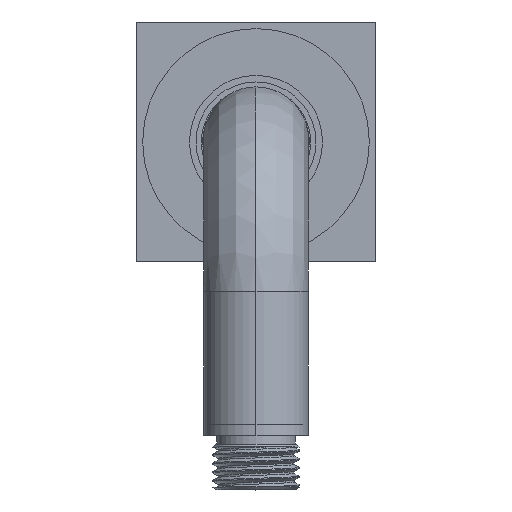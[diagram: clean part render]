
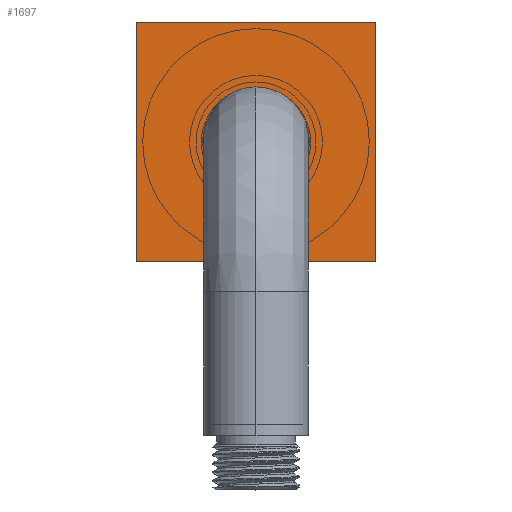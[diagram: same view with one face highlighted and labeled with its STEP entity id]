
A CAD part, top view. The second image highlights one B-rep face of the part: STEP entity #1697.
In plain terms, the highlighted planar face has unit normal (0, 0, 1).
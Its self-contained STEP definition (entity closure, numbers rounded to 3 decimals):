
#192=FACE_BOUND('',#515,.T.);
#210=LINE('',#2442,#290);
#211=LINE('',#2444,#291);
#212=LINE('',#2446,#292);
#213=LINE('',#2447,#293);
#290=VECTOR('',#2008,55.);
#291=VECTOR('',#2009,55.);
#292=VECTOR('',#2010,55.);
#293=VECTOR('',#2011,55.);
#370=PLANE('',#1824);
#407=FACE_OUTER_BOUND('',#514,.T.);
#514=EDGE_LOOP('',(#1169,#1170,#1171,#1172));
#515=EDGE_LOOP('',(#1173));
#640=CIRCLE('',#1825,12.25);
#725=VERTEX_POINT('',#2440);
#726=VERTEX_POINT('',#2441);
#727=VERTEX_POINT('',#2443);
#728=VERTEX_POINT('',#2445);
#729=VERTEX_POINT('',#2448);
#902=EDGE_CURVE('',#725,#726,#210,.T.);
#903=EDGE_CURVE('',#727,#725,#211,.T.);
#904=EDGE_CURVE('',#728,#727,#212,.T.);
#905=EDGE_CURVE('',#726,#728,#213,.T.);
#906=EDGE_CURVE('',#729,#729,#640,.T.);
#1169=ORIENTED_EDGE('',*,*,#902,.F.);
#1170=ORIENTED_EDGE('',*,*,#903,.F.);
#1171=ORIENTED_EDGE('',*,*,#904,.F.);
#1172=ORIENTED_EDGE('',*,*,#905,.F.);
#1173=ORIENTED_EDGE('',*,*,#906,.F.);
#1697=ADVANCED_FACE('',(#407,#192),#370,.F.);
#1824=AXIS2_PLACEMENT_3D('',#2439,#2006,#2007);
#1825=AXIS2_PLACEMENT_3D('',#2449,#2012,#2013);
#2006=DIRECTION('center_axis',(0.,0.,
-1.));
#2007=DIRECTION('ref_axis',(0.,1.,0.));
#2008=DIRECTION('',(-1.,0.,0.));
#2009=DIRECTION('',(0.,-1.,0.));
#2010=DIRECTION('',(1.,0.,0.));
#2011=DIRECTION('',(0.,1.,0.));
#2012=DIRECTION('center_axis',(0.,0.,
1.));
#2013=DIRECTION('ref_axis',(0.,-1.,0.));
#2439=CARTESIAN_POINT('Origin',(0.86,7.221,-7.546));
#2440=CARTESIAN_POINT('',(28.36,-20.279,-7.546));
#2441=CARTESIAN_POINT('',(-26.64,-20.279,-7.546));
#2442=CARTESIAN_POINT('',(28.36,-20.279,-7.546));
#2443=CARTESIAN_POINT('',(28.36,34.721,-7.546));
#2444=CARTESIAN_POINT('',(28.36,34.721,-7.546));
#2445=CARTESIAN_POINT('',(-26.64,34.721,-7.546));
#2446=CARTESIAN_POINT('',(-26.64,34.721,-7.546));
#2447=CARTESIAN_POINT('',(-26.64,-20.279,-7.546));
#2448=CARTESIAN_POINT('',(0.86,19.471,-7.546));
#2449=CARTESIAN_POINT('Origin',(0.86,7.221,-7.546));
